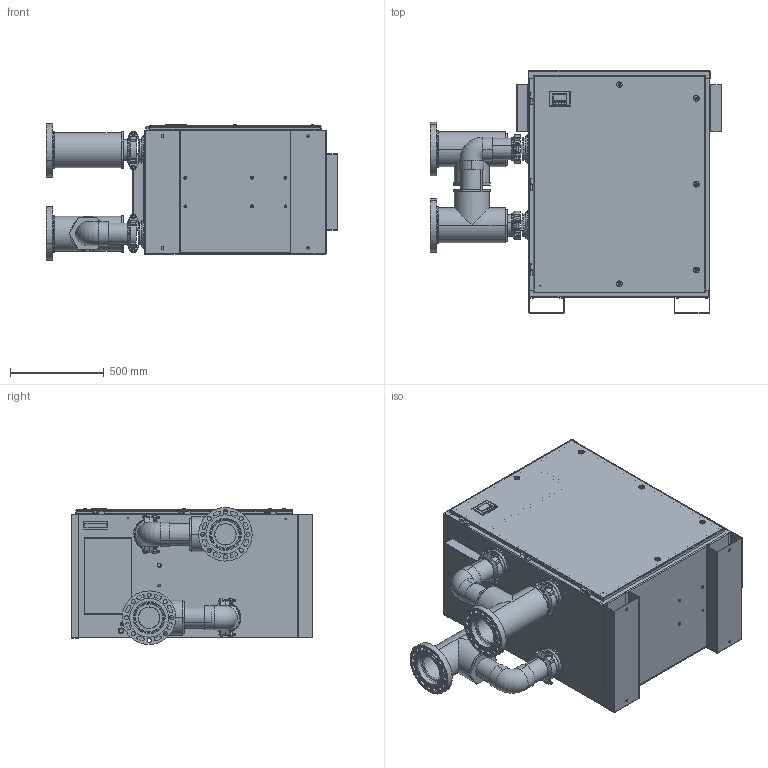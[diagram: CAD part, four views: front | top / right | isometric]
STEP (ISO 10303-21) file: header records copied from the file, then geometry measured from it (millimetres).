
FILE_DESCRIPTION (( 'STEP AP214' ), '1' );
FILE_NAME ('UV-C-PRO-500D.STEP', '2019-03-01T20:19:38', ( '' ), ( '' ), 'SwSTEP 2.0', 'SolidWorks 2017', '' );
FILE_SCHEMA (( 'AUTOMOTIVE_DESIGN' ));
Length unit declared in the file: inch
Products named in the file (1): UV-C-PRO-500D
Bounding box: 1555.15 x 1289.05 x 729.99 mm (x, y, z)
Surface area: 11583374.7 mm2 (no closed solid volume)
Topology: 0 solids, 190 shells, 1111 faces, 6117 edges, 5112 vertices
Faces by surface type: cylinder 493, plane 429, torus 67, bspline 45, cone 40, sphere 37
Entity records: 79613 total; most frequent: CARTESIAN_POINT 17288, DIRECTION 10415, ORIENTED_EDGE 7571, EDGE_CURVE 6087, VERTEX_POINT 5096, AXIS2_PLACEMENT_3D 3785, VECTOR 2845, LINE 2845
